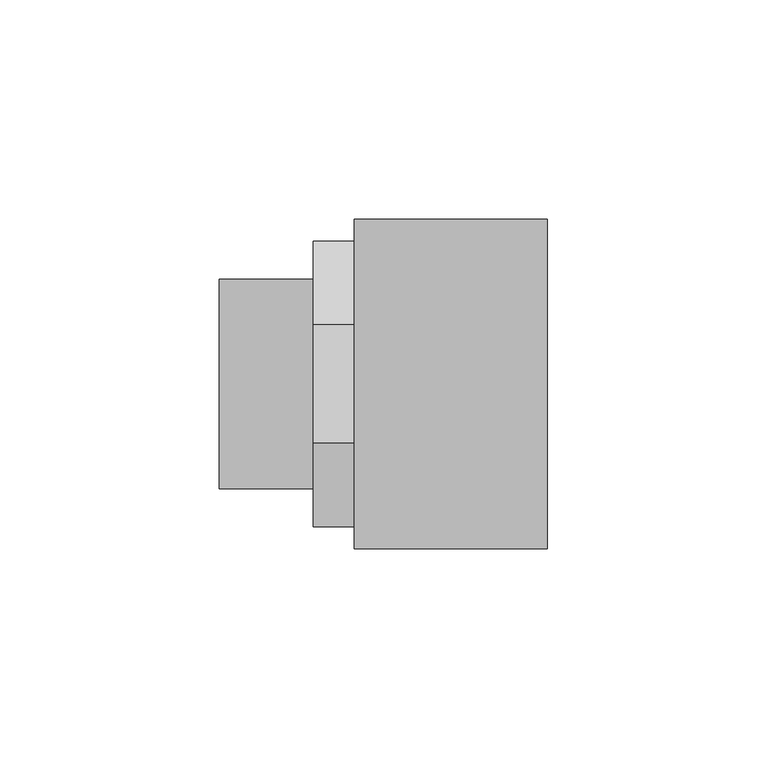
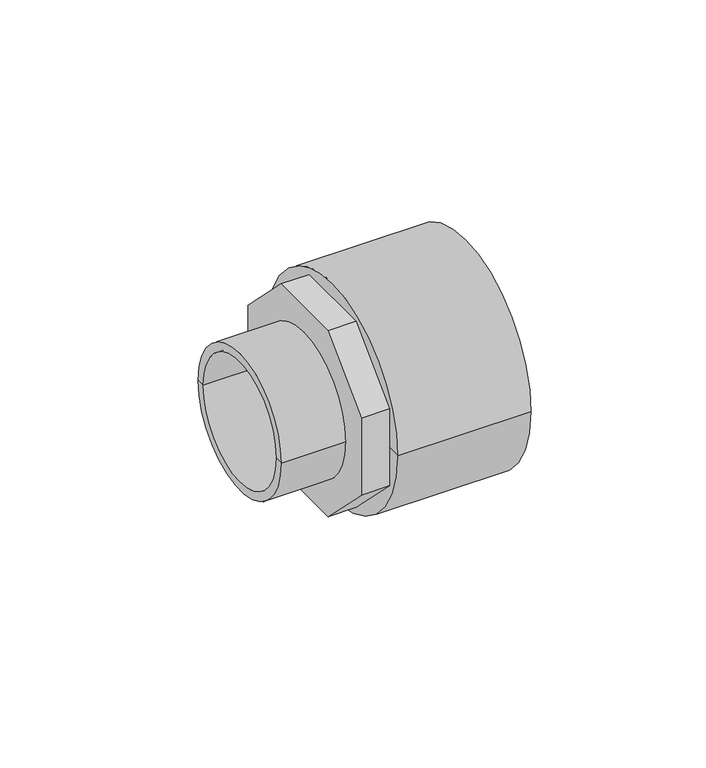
"""IFC4 building model written with IfcOpenShell, lengths in millimetres: pipe fitting geometry, Durapipe_PipeFitting_PVC_MaleThreadedAdaptors : 75 x 63 x G1-1⁄2."""

from ifc_helpers import new_model, si_unit, point, frame, origin, origin_2d, place, context, project, spatial, polyline, circle_curve, trimmed, segment, composite_curve, outline, extrude, source, transform, mapped, element, save
from ifc_brep_helpers import plane_surface, cylinder_surface, revolved_surface, advanced_brep


def pipe_fitting_9d1be2bb(model_context):
    return source(origin(), model_context, "Body", "SolidModel", [
        extrude(outline(polyline([(32.5, 13.4619408), (32.5, -13.4619408), (13.4619408, -32.5), (-13.4619408, -32.5), (-32.5, -13.4619408), (-32.5, 13.4619408), (-13.4619408, 32.5), (13.4619408, 32.5), (32.5, 13.4619408)]), holes=[composite_curve([segment(trimmed(circle_curve(origin_2d(), 21.0), [point((21.0, 0.0))], [point((-21.0, 0.0))], True, "CARTESIAN"), True, "CONTINUOUS"), segment(trimmed(circle_curve(origin_2d(), 21.0), [point((-21.0, 0.0))], [point((21.0, 0.0))], True, "CARTESIAN"), True, "CONTINUOUS")], self_intersect=False)]), frame((-9.3, 0.0, 0.0), z_axis=(1.0, 0.0, 0.0), x_axis=(0.0, 1.0, 0.0)), (0.0, 0.0, 1.0), 9.3),
        advanced_brep(
        [(0.0, -37.5, 0.0), (0.0, 37.5, 0.0), (44.0, 37.5, 0.0), (44.0, -37.5, 0.0), (44.0, 31.5, 0.0), (44.0, -31.5, 0.0), (0.0, 0.0, 0.0), (6.0, 31.5, 0.0), (6.0, -31.5, 0.0), (6.0, 0.0, 0.0)],
        [
            (0, 1, circle_curve(frame((0.0, 0.0, 0.0), z_axis=(1.0, 0.0, 0.0), x_axis=(0.0, 1.0, 0.0)), 37.5)),
            (1, 2),
            (2, 3, circle_curve(frame((44.0, 0.0, 0.0), z_axis=(-1.0, 0.0, 0.0), x_axis=(0.0, 1.0, 0.0)), 37.5)),
            (3, 0),
            (1, 0, circle_curve(frame((0.0, 0.0, 0.0), z_axis=(1.0, 0.0, 0.0), x_axis=(0.0, 1.0, 0.0)), 37.5)),
            (3, 2, circle_curve(frame((44.0, 0.0, 0.0), z_axis=(-1.0, 0.0, 0.0), x_axis=(0.0, 1.0, 0.0)), 37.5)),
            (2, 4),
            (4, 5, circle_curve(frame((44.0, 0.0, 0.0), z_axis=(-1.0, 0.0, 0.0), x_axis=(0.0, 1.0, 0.0)), 31.5)),
            (5, 3),
            (5, 4, circle_curve(frame((44.0, 0.0, 0.0), z_axis=(-1.0, 0.0, 0.0), x_axis=(0.0, 1.0, 0.0)), 31.5)),
            (0, 6),
            (6, 1),
            (7, 8, circle_curve(frame((6.0, 0.0, 0.0), z_axis=(-1.0, 0.0, 0.0), x_axis=(0.0, 1.0, 0.0)), 31.5)),
            (8, 5),
            (4, 7),
            (8, 7, circle_curve(frame((6.0, 0.0, 0.0), z_axis=(-1.0, 0.0, 0.0), x_axis=(0.0, 1.0, 0.0)), 31.5)),
            (7, 9),
            (9, 8),
        ],
        [
            cylinder_surface(frame((445.4572068, 0.0, 0.0), z_axis=(-1.0, 0.0, 0.0), x_axis=(0.0, 1.0, 0.0)), 37.5),
            plane_surface(frame((44.0, 0.0, 0.0), z_axis=(1.0, 0.0, 0.0), x_axis=(0.0, 1.0, 0.0))),
            plane_surface(frame((0.0, 0.0, 0.0), z_axis=(-1.0, 0.0, 0.0), x_axis=(0.0, 1.0, 0.0))),
            revolved_surface(polyline([(6.0, 31.5, 0.0), (44.0, 31.5, 0.0)]), (57.5575137, 0.0, 0.0), (-1.0, 0.0, 0.0)),
            plane_surface(frame((6.0, 0.0, 0.0), z_axis=(1.0, 0.0, 0.0), x_axis=(0.0, 1.0, 0.0))),
        ],
        [
            (0, [[1, 2, 3, 4]]),
            (0, [[-2, 5, -4, 6]]),
            (1, [[-3, 7, 8, 9]]),
            (1, [[-6, -9, 10, -7]]),
            (2, [[-1, 11, 12]]),
            (2, [[-5, -12, -11]]),
            (3, [[13, 14, -8, 15]]),
            (3, [[16, -15, -10, -14]]),
            (4, [[-13, 17, 18]]),
            (4, [[-16, -18, -17]]),
        ],
    ),
        advanced_brep(
        [(-9.3, -21.0, 0.0), (-9.3, 21.0, 0.0), (-30.7, 21.0, 0.0), (-30.7, -21.0, 0.0), (-9.3, -23.9, 0.0), (-9.3, 23.9, 0.0), (-30.7, -23.9, 0.0), (-30.7, 23.9, 0.0)],
        [
            (0, 1, circle_curve(frame((-9.3, 0.0, 0.0), z_axis=(1.0, 0.0, 0.0), x_axis=(0.0, 1.0, 0.0)), 21.0)),
            (1, 2),
            (2, 3, circle_curve(frame((-30.7, 0.0, 0.0), z_axis=(-1.0, 0.0, 0.0), x_axis=(0.0, 1.0, 0.0)), 21.0)),
            (3, 0),
            (1, 0, circle_curve(frame((-9.3, 0.0, 0.0), z_axis=(1.0, 0.0, 0.0), x_axis=(0.0, 1.0, 0.0)), 21.0)),
            (3, 2, circle_curve(frame((-30.7, 0.0, 0.0), z_axis=(-1.0, 0.0, 0.0), x_axis=(0.0, 1.0, 0.0)), 21.0)),
            (4, 5, circle_curve(frame((-9.3, 0.0, 0.0), z_axis=(1.0, 0.0, 0.0), x_axis=(0.0, 1.0, 0.0)), 23.9)),
            (5, 1),
            (0, 4),
            (5, 4, circle_curve(frame((-9.3, 0.0, 0.0), z_axis=(1.0, 0.0, 0.0), x_axis=(0.0, 1.0, 0.0)), 23.9)),
            (6, 7, circle_curve(frame((-30.7, 0.0, 0.0), z_axis=(1.0, 0.0, 0.0), x_axis=(0.0, 1.0, 0.0)), 23.9)),
            (7, 5),
            (4, 6),
            (7, 6, circle_curve(frame((-30.7, 0.0, 0.0), z_axis=(1.0, 0.0, 0.0), x_axis=(0.0, 1.0, 0.0)), 23.9)),
            (2, 7),
            (6, 3),
        ],
        [
            revolved_surface(polyline([(-30.7, 21.0, 0.0), (-9.299999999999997, 21.0, 0.0)]), (-45.7, 0.0, 0.0), (-1.0, 0.0, 0.0)),
            plane_surface(frame((-9.3, 0.0, 0.0), z_axis=(1.0, 0.0, 0.0), x_axis=(0.0, 1.0, 0.0))),
            cylinder_surface(frame((-45.7, 0.0, 0.0), z_axis=(-1.0, 0.0, 0.0), x_axis=(0.0, 1.0, 0.0)), 23.9),
            plane_surface(frame((-30.7, 0.0, 0.0), z_axis=(-1.0, 0.0, 0.0), x_axis=(0.0, 1.0, 0.0))),
        ],
        [
            (0, [[1, 2, 3, 4]]),
            (0, [[5, -4, 6, -2]]),
            (1, [[7, 8, -1, 9]]),
            (1, [[10, -9, -5, -8]]),
            (2, [[11, 12, -7, 13]]),
            (2, [[14, -13, -10, -12]]),
            (3, [[-3, 15, -11, 16]]),
            (3, [[-6, -16, -14, -15]]),
        ],
    ),
    ])


if __name__ == "__main__":
    model = new_model("IFC4")
    model_context = context("Model", 3, world=origin())
    ifc_project = project(units=[si_unit("LENGTHUNIT", "METRE", prefix="MILLI")], contexts=[model_context])
    site = spatial("IfcSite", under=ifc_project)
    building = spatial("IfcBuilding", under=site)
    placement = place(None, origin())
    pipe_fitting_shape = pipe_fitting_9d1be2bb(model_context)
    element("IfcPipeFitting", 1, ObjectType="Durapipe_PipeFitting_PVC_MaleThreadedAdaptors : 75 x 63 x G1-1⁄2", at=placement, inside=building, context=model_context, shape_type="MappedRepresentation", body=[
        mapped(pipe_fitting_shape, transform((0.0, 0.0, 0.0), x_axis=(1.0, 0.0, 0.0), y_axis=(0.0, 1.0, 0.0), z_axis=(0.0, 0.0, 1.0))),
    ])
    save(model, "model.ifc")
